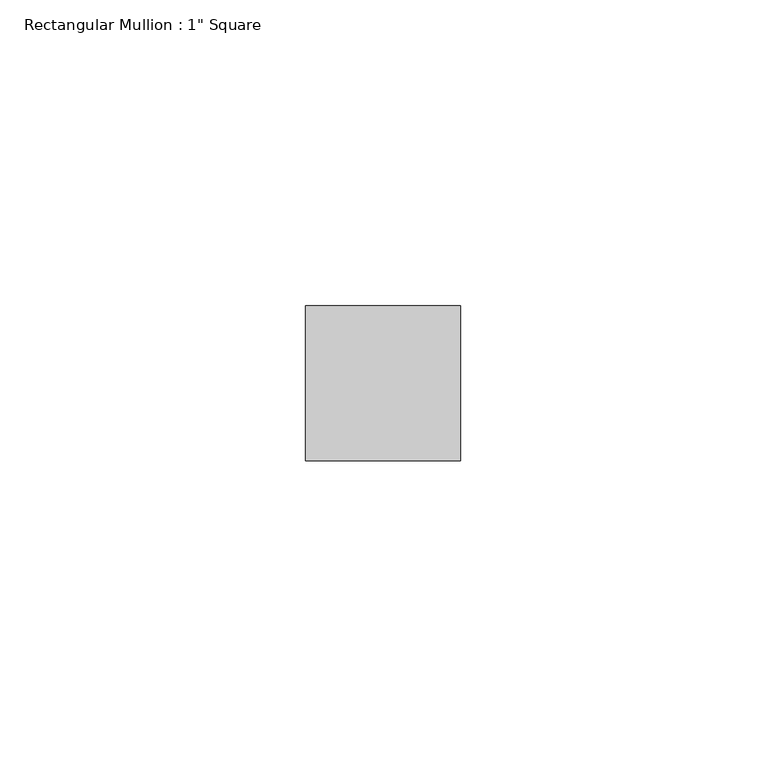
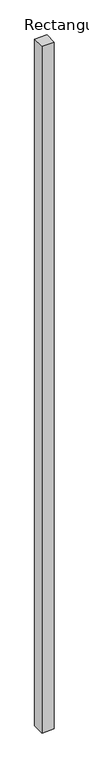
"""IFC4 building model written with IfcOpenShell, lengths in millimetres: member geometry."""

from ifc_helpers import new_model, si_unit, frame, origin, place, context, project, spatial, polyline, outline, extrude, source, transform, mapped, element, save


def member_5e617a80(model_context):
    return source(origin(), model_context, "Body", "SweptSolid", [
        extrude(outline(polyline([(12.7, 12.7), (12.7, -12.7), (-12.7, -12.7), (-12.7, 12.7), (12.7, 12.7)])), frame((0.0, 0.0, -1485.9), z_axis=(0.0, 0.0, 1.0), x_axis=(1.0, 0.0, 0.0)), (0.0, 0.0, 1.0), 1485.9),
    ])


if __name__ == "__main__":
    model = new_model("IFC4")
    model_context = context("Model", 3, world=origin())
    ifc_project = project(units=[si_unit("LENGTHUNIT", "METRE", prefix="MILLI")], contexts=[model_context])
    site = spatial("IfcSite", under=ifc_project)
    building = spatial("IfcBuilding", under=site)
    placement = place(None, origin())
    member_shape = member_5e617a80(model_context)
    element("IfcMember", 1, ObjectType="Rectangular Mullion : 1\" Square", at=placement, inside=building, context=model_context, shape_type="MappedRepresentation", body=[
        mapped(member_shape, transform((0.0, 0.0, 0.0), x_axis=(1.0, 0.0, 0.0), y_axis=(0.0, 1.0, 0.0), z_axis=(0.0, 0.0, 1.0))),
    ])
    save(model, "model.ifc")
